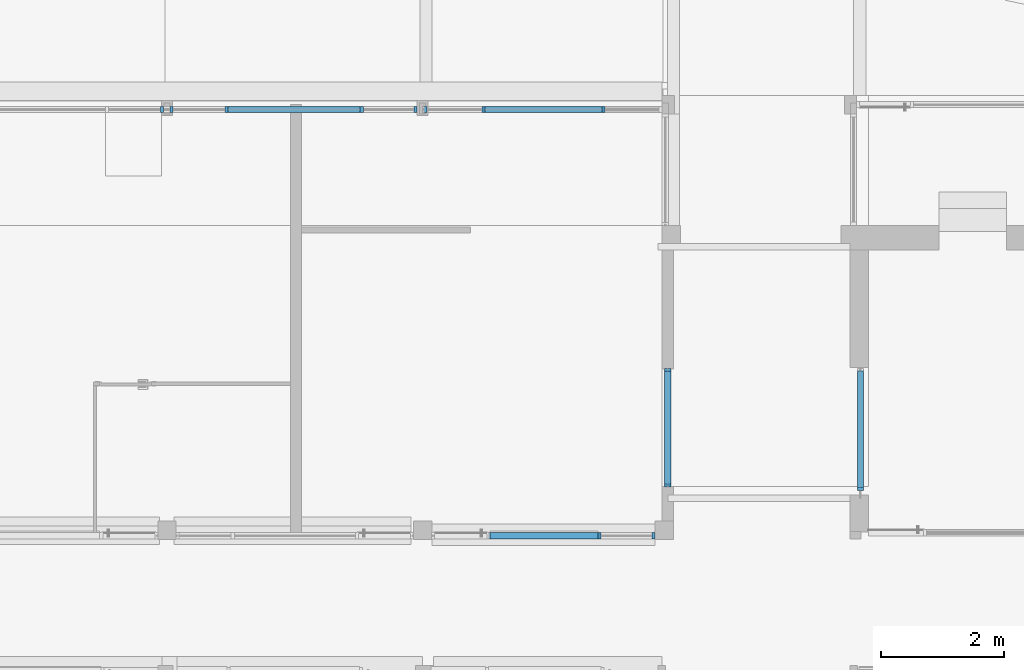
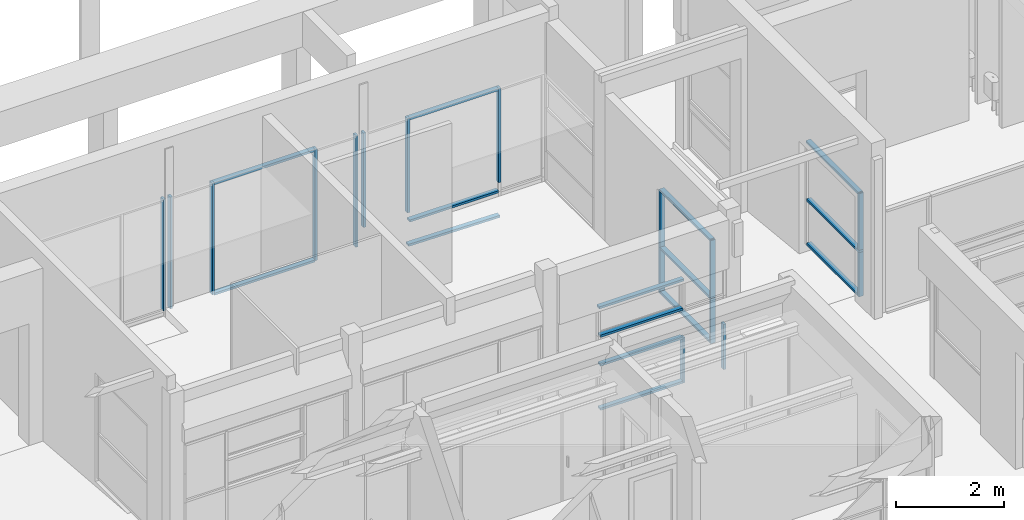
# One storey, part 13 of 117: 31 members, 5 elements without a shape of their own.
"""IFC4 building model written with IfcOpenShell, lengths in metres."""

from ifc_helpers import new_model, entity, si_unit, converted_unit, derived_unit, direction, frame, origin, place, context, subcontext, project, spatial, indexed_curve, outline, extrude, source, transform, mapped, material, type_object, type_shapes, element, aggregate, save


model = new_model("IFC4")

# Units and contexts
model_context = context("Model", 3, precision=1e-05, world=origin(), true_north=direction((6.123031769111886e-17, 1.0)))
body_context = subcontext(model_context, "Body", "Model", "MODEL_VIEW")
ifc_project = project(units=[si_unit("LENGTHUNIT", "METRE"), si_unit("AREAUNIT", "SQUARE_METRE"), si_unit("VOLUMEUNIT", "CUBIC_METRE"), converted_unit("PLANEANGLEUNIT", "DEGREE", entity("IfcRatioMeasure", 0.017453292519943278), si_unit("PLANEANGLEUNIT", "RADIAN"), dimensions=[0, 0, 0, 0, 0, 0, 0]), si_unit("MASSUNIT", "GRAM", prefix="KILO"), derived_unit("MASSDENSITYUNIT", [(si_unit("MASSUNIT", "GRAM", prefix="KILO"), 1), (si_unit("LENGTHUNIT", "METRE"), -3)]), derived_unit("MOMENTOFINERTIAUNIT", [(si_unit("LENGTHUNIT", "METRE"), 4)]), si_unit("TIMEUNIT", "SECOND"), si_unit("FREQUENCYUNIT", "HERTZ"), si_unit("THERMODYNAMICTEMPERATUREUNIT", "DEGREE_CELSIUS"), derived_unit("THERMALTRANSMITTANCEUNIT", [(si_unit("MASSUNIT", "GRAM", prefix="KILO"), 1), (si_unit("THERMODYNAMICTEMPERATUREUNIT", "KELVIN"), -1), (si_unit("TIMEUNIT", "SECOND"), -3)]), derived_unit("VOLUMETRICFLOWRATEUNIT", [(si_unit("LENGTHUNIT", "METRE"), 3), (si_unit("TIMEUNIT", "SECOND"), -1)]), derived_unit("MASSFLOWRATEUNIT", [(si_unit("MASSUNIT", "GRAM", prefix="KILO"), 1), (si_unit("TIMEUNIT", "SECOND"), -1)]), derived_unit("ROTATIONALFREQUENCYUNIT", [(si_unit("TIMEUNIT", "SECOND"), -1)]), si_unit("ELECTRICCURRENTUNIT", "AMPERE"), si_unit("ELECTRICVOLTAGEUNIT", "VOLT"), si_unit("POWERUNIT", "WATT"), si_unit("FORCEUNIT", "NEWTON", prefix="KILO"), si_unit("ILLUMINANCEUNIT", "LUX"), si_unit("LUMINOUSFLUXUNIT", "LUMEN"), si_unit("LUMINOUSINTENSITYUNIT", "CANDELA"), derived_unit("USERDEFINED", [(si_unit("MASSUNIT", "GRAM", prefix="KILO"), -1), (si_unit("LENGTHUNIT", "METRE"), -2), (si_unit("TIMEUNIT", "SECOND"), 3), (si_unit("LUMINOUSFLUXUNIT", "LUMEN"), 1)]), derived_unit("SOUNDPOWERUNIT", [(si_unit("MASSUNIT", "GRAM", prefix="KILO"), 1), (si_unit("LENGTHUNIT", "METRE"), 2), (si_unit("TIMEUNIT", "SECOND"), -3)]), derived_unit("SOUNDPRESSUREUNIT", [(si_unit("MASSUNIT", "GRAM", prefix="KILO"), 1), (si_unit("LENGTHUNIT", "METRE"), -1), (si_unit("TIMEUNIT", "SECOND"), -2)]), derived_unit("LINEARVELOCITYUNIT", [(si_unit("LENGTHUNIT", "METRE"), 1), (si_unit("TIMEUNIT", "SECOND"), -1)]), si_unit("PRESSUREUNIT", "PASCAL"), derived_unit("USERDEFINED", [(si_unit("LENGTHUNIT", "METRE"), -2), (si_unit("MASSUNIT", "GRAM", prefix="KILO"), 1), (si_unit("TIMEUNIT", "SECOND"), -2)]), derived_unit("LINEARFORCEUNIT", [(si_unit("MASSUNIT", "GRAM", prefix="KILO"), 1), (si_unit("LENGTHUNIT", "METRE"), 1), (si_unit("TIMEUNIT", "SECOND"), -2), (si_unit("LENGTHUNIT", "METRE"), -1)]), derived_unit("PLANARFORCEUNIT", [(si_unit("MASSUNIT", "GRAM", prefix="KILO"), 1), (si_unit("LENGTHUNIT", "METRE"), 1), (si_unit("TIMEUNIT", "SECOND"), -2), (si_unit("LENGTHUNIT", "METRE"), -2)])], contexts=[model_context])

# Site, building, storey
site_placement = place(None, origin())
site = spatial("IfcSite", under=ifc_project, at=site_placement, Name="Superficie", CompositionType="ELEMENT")
building_placement = place(site_placement, origin())
building = spatial("IfcBuilding", under=site, at=building_placement, CompositionType="ELEMENT")
storey_placement = place(building_placement, origin())
storey = spatial("IfcBuildingStorey", under=building, at=storey_placement, Name="Nivel 0", CompositionType="ELEMENT", Elevation=0.0)

# Curtain wall, members
curtain_wall_type = type_object("IfcCurtainWallType", Name="Muro cortina:Muro cortina - simple", PredefinedType="NOTDEFINED")
curtain_wall_1_placement = place(storey_placement, origin())
curtain_wall_1 = element("IfcCurtainWall", 1, at=curtain_wall_1_placement, inside=storey, type_object=curtain_wall_type, Name="Muro cortina:Muro cortina - simple", ObjectType="Muro cortina:Muro cortina - simple", PredefinedType="NOTDEFINED")
ifc_material = material(Name="<Unnamed>")
member_type_1 = type_object("IfcMemberType", Name="Montante rectangular:Montante rectangular - 5 x 10 cm", PredefinedType="MULLION", material=ifc_material)
shared_shape_1 = source(origin(), body_context, "Body", "SweptSolid", [
    extrude(outline(indexed_curve([(-0.05, -0.025), (0.05, -0.025), (0.05, 0.025), (-0.05, 0.025), (-0.05, -0.025)], self_intersect=False)), frame((0.0, 0.0, -1.0250000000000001), z_axis=(0.0, 0.0, 1.0), x_axis=(0.0, -1.0, 0.0)), (0.0, 0.0, 1.0), 1.0250000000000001),
])
type_shapes(member_type_1, [shared_shape_1])
member_1_placement = place(curtain_wall_1_placement, frame((12.881799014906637, 6.536739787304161, -0.004999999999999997), z_axis=(0.0, 0.0, -1.0), x_axis=(0.0, -1.0, 0.0)))
member_1 = element("IfcMember", 2, at=member_1_placement, type_object=member_type_1, material=ifc_material, Name="Montante rectangular:Montante rectangular - 5 x 10 cm", ObjectType="Montante rectangular:Montante rectangular - 5 x 10 cm", PredefinedType="MULLION", context=body_context, shape_type="MappedRepresentation", body=[
    mapped(shared_shape_1, transform((0.0, 0.0, 0.0), scale=1.0)),
])
member_2_placement = place(curtain_wall_1_placement, frame((12.881799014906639, 8.413973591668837, -0.004999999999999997), z_axis=(0.0, 0.0, -1.0), x_axis=(0.0, -1.0, 0.0)))
member_2 = element("IfcMember", 3, at=member_2_placement, type_object=member_type_1, material=ifc_material, Name="Montante rectangular:Montante rectangular - 5 x 10 cm", ObjectType="Montante rectangular:Montante rectangular - 5 x 10 cm", PredefinedType="MULLION", context=body_context, shape_type="MappedRepresentation", body=[
    mapped(shared_shape_1, transform((0.0, 0.0, 0.0), scale=1.0)),
])

# Curtain wall, member
curtain_wall_2_placement = place(storey_placement, origin())
curtain_wall_2 = element("IfcCurtainWall", 4, at=curtain_wall_2_placement, inside=storey, type_object=curtain_wall_type, Name="Muro cortina:Muro cortina - simple", ObjectType="Muro cortina:Muro cortina - simple", PredefinedType="NOTDEFINED")
member_3_placement = place(curtain_wall_2_placement, frame((11.771799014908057, 5.7167397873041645, -0.005000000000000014), z_axis=(0.0, 0.0, -1.0), x_axis=(1.0, 0.0, 0.0)))
member_3 = element("IfcMember", 5, at=member_3_placement, type_object=member_type_1, material=ifc_material, Name="Montante rectangular:Montante rectangular - 5 x 10 cm", ObjectType="Montante rectangular:Montante rectangular - 5 x 10 cm", PredefinedType="MULLION", context=body_context, shape_type="MappedRepresentation", body=[
    mapped(shared_shape_1, transform((0.0, 0.0, 0.0), scale=1.0)),
])

# Member
member_type_2 = type_object("IfcMemberType", Name="Montante rectangular:Montante rectangular - 5 x 10 cm", PredefinedType="MULLION", material=ifc_material)
shared_shape_2 = source(origin(), body_context, "Body", "SweptSolid", [
    extrude(outline(indexed_curve([(-0.05, -0.025), (0.05, -0.025), (0.05, 0.025), (-0.05, 0.025), (-0.05, -0.025)], self_intersect=False)), frame((0.0, 0.0, -1.3099999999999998), z_axis=(0.0, 0.0, 1.0), x_axis=(0.0, -1.0, 0.0)), (0.0, 0.0, 1.0), 1.3099999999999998),
])
type_shapes(member_type_2, [shared_shape_2])
member_4_placement = place(curtain_wall_1_placement, frame((12.881799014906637, 6.536739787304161, 1.0200000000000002), z_axis=(0.0, 0.0, -1.0), x_axis=(0.0, -1.0, 0.0)))
member_4 = element("IfcMember", 6, at=member_4_placement, type_object=member_type_2, material=ifc_material, Name="Montante rectangular:Montante rectangular - 5 x 10 cm", ObjectType="Montante rectangular:Montante rectangular - 5 x 10 cm", PredefinedType="MULLION", context=body_context, shape_type="MappedRepresentation", body=[
    mapped(shared_shape_2, transform((0.0, 0.0, 0.0), scale=1.0)),
])

member_5_placement = place(curtain_wall_1_placement, frame((12.881799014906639, 8.413973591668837, 1.0200000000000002), z_axis=(0.0, 0.0, -1.0), x_axis=(0.0, -1.0, 0.0)))
member_5 = element("IfcMember", 7, at=member_5_placement, type_object=member_type_2, material=ifc_material, Name="Montante rectangular:Montante rectangular - 5 x 10 cm", ObjectType="Montante rectangular:Montante rectangular - 5 x 10 cm", PredefinedType="MULLION", context=body_context, shape_type="MappedRepresentation", body=[
    mapped(shared_shape_2, transform((0.0, 0.0, 0.0), scale=1.0)),
])

member_type_3 = type_object("IfcMemberType", Name="Montante rectangular:Montante rectangular - 5 x 10 cm", PredefinedType="MULLION", material=ifc_material)
shared_shape_3 = source(origin(), body_context, "Body", "SweptSolid", [
    extrude(outline(indexed_curve([(-0.05, -0.025), (0.05, -0.025), (0.05, 0.025), (-0.05, 0.025), (-0.05, -0.025)], self_intersect=False)), frame((-0.025, 0.0, -1.877233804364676), z_axis=(0.0, 0.0, 1.0), x_axis=(0.0, -1.0, 0.0)), (0.0, 0.0, 1.0), 1.8772338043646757),
])
type_shapes(member_type_3, [shared_shape_3])
member_6_placement = place(curtain_wall_1_placement, frame((12.881799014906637, 6.536739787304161, 2.3499999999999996), z_axis=(0.0, -1.0, 0.0), x_axis=(0.0, 0.0, 1.0)))
member_6 = element("IfcMember", 8, at=member_6_placement, type_object=member_type_3, material=ifc_material, Name="Montante rectangular:Montante rectangular - 5 x 10 cm", ObjectType="Montante rectangular:Montante rectangular - 5 x 10 cm", PredefinedType="MULLION", context=body_context, shape_type="MappedRepresentation", body=[
    mapped(shared_shape_3, transform((0.0, 0.0, 0.0), scale=1.0)),
])

member_type_4 = type_object("IfcMemberType", Name="Montante rectangular:Montante rectangular - 5 x 10 cm", PredefinedType="MULLION", material=ifc_material)
shared_shape_4 = source(origin(), body_context, "Body", "SweptSolid", [
    extrude(outline(indexed_curve([(-0.05, -0.025), (0.05, -0.025), (0.05, 0.025), (-0.05, 0.025), (-0.05, -0.025)], self_intersect=False)), frame((0.0, 0.0, -1.827233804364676), z_axis=(0.0, 0.0, 1.0), x_axis=(0.0, -1.0, 0.0)), (0.0, 0.0, 1.0), 1.8272338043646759),
])
type_shapes(member_type_4, [shared_shape_4])
member_7_placement = place(curtain_wall_1_placement, frame((12.881799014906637, 6.561739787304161, 0.020000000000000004), z_axis=(0.0, -1.0, 0.0), x_axis=(0.0, 0.0, 1.0)))
member_7 = element("IfcMember", 9, at=member_7_placement, type_object=member_type_4, material=ifc_material, Name="Montante rectangular:Montante rectangular - 5 x 10 cm", ObjectType="Montante rectangular:Montante rectangular - 5 x 10 cm", PredefinedType="MULLION", context=body_context, shape_type="MappedRepresentation", body=[
    mapped(shared_shape_4, transform((0.0, 0.0, 0.0), scale=1.0)),
])

member_8_placement = place(curtain_wall_1_placement, frame((12.881799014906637, 6.561739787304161, 1.0200000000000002), z_axis=(0.0, -1.0, 0.0), x_axis=(0.0, 0.0, 1.0)))
member_8 = element("IfcMember", 10, at=member_8_placement, type_object=member_type_4, material=ifc_material, Name="Montante rectangular:Montante rectangular - 5 x 10 cm", ObjectType="Montante rectangular:Montante rectangular - 5 x 10 cm", PredefinedType="MULLION", context=body_context, shape_type="MappedRepresentation", body=[
    mapped(shared_shape_4, transform((0.0, 0.0, 0.0), scale=1.0)),
])

aggregate(curtain_wall_1, [member_6, member_1, member_7, member_2, member_4, member_5, member_8])

member_type_5 = type_object("IfcMemberType", Name="Montante rectangular:Montante rectangular - 5 x 10 cm", PredefinedType="MULLION", material=ifc_material)
shared_shape_5 = source(origin(), body_context, "Body", "SweptSolid", [
    extrude(outline(indexed_curve([(-0.05, -0.025), (0.05, -0.025), (0.05, 0.025), (-0.05, 0.025), (-0.05, -0.025)], self_intersect=False)), frame((-0.025, 0.0, -1.8102469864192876), z_axis=(0.0, 0.0, 1.0), x_axis=(0.0, -1.0, 0.0)), (0.0, 0.0, 1.0), 1.8102469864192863),
])
type_shapes(member_type_5, [shared_shape_5])
member_9_placement = place(curtain_wall_2_placement, frame((11.771799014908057, 5.7167397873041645, 2.35), z_axis=(1.0, 0.0, 0.0), x_axis=(0.0, 0.0, 1.0)))
member_9 = element("IfcMember", 11, at=member_9_placement, type_object=member_type_5, material=ifc_material, Name="Montante rectangular:Montante rectangular - 5 x 10 cm", ObjectType="Montante rectangular:Montante rectangular - 5 x 10 cm", PredefinedType="MULLION", context=body_context, shape_type="MappedRepresentation", body=[
    mapped(shared_shape_5, transform((0.0, 0.0, 0.0), scale=1.0)),
])

member_type_6 = type_object("IfcMemberType", Name="Montante rectangular:Montante rectangular - 5 x 10 cm", PredefinedType="MULLION", material=ifc_material)
shared_shape_6 = source(origin(), body_context, "Body", "SweptSolid", [
    extrude(outline(indexed_curve([(-0.05, -0.025), (0.05, -0.025), (0.05, 0.025), (-0.05, 0.025), (-0.05, -0.025)], self_intersect=False)), frame((0.0, 0.0, -1.7602469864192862), z_axis=(0.0, 0.0, 1.0), x_axis=(0.0, -1.0, 0.0)), (0.0, 0.0, 1.0), 1.7602469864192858),
])
type_shapes(member_type_6, [shared_shape_6])
member_10_placement = place(curtain_wall_2_placement, frame((11.746799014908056, 5.7167397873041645, 0.019999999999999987), z_axis=(1.0, 0.0, 0.0), x_axis=(0.0, 0.0, 1.0)))
member_10 = element("IfcMember", 12, at=member_10_placement, type_object=member_type_6, material=ifc_material, Name="Montante rectangular:Montante rectangular - 5 x 10 cm", ObjectType="Montante rectangular:Montante rectangular - 5 x 10 cm", PredefinedType="MULLION", context=body_context, shape_type="MappedRepresentation", body=[
    mapped(shared_shape_6, transform((0.0, 0.0, 0.0), scale=1.0)),
])

member_11_placement = place(curtain_wall_2_placement, frame((11.746799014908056, 5.7167397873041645, 1.0199999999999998), z_axis=(1.0, 0.0, 0.0), x_axis=(0.0, 0.0, 1.0)))
member_11 = element("IfcMember", 13, at=member_11_placement, type_object=member_type_6, material=ifc_material, Name="Montante rectangular:Montante rectangular - 5 x 10 cm", ObjectType="Montante rectangular:Montante rectangular - 5 x 10 cm", PredefinedType="MULLION", context=body_context, shape_type="MappedRepresentation", body=[
    mapped(shared_shape_6, transform((0.0, 0.0, 0.0), scale=1.0)),
])

member_12_placement = place(curtain_wall_2_placement, frame((11.746799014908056, 5.7167397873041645, 1.6749999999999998), z_axis=(1.0, 0.0, 0.0), x_axis=(0.0, 0.0, 1.0)))
member_12 = element("IfcMember", 14, at=member_12_placement, type_object=member_type_6, material=ifc_material, Name="Montante rectangular:Montante rectangular - 5 x 10 cm", ObjectType="Montante rectangular:Montante rectangular - 5 x 10 cm", PredefinedType="MULLION", context=body_context, shape_type="MappedRepresentation", body=[
    mapped(shared_shape_6, transform((0.0, 0.0, 0.0), scale=1.0)),
])

member_type_7 = type_object("IfcMemberType", Name="Montante rectangular:Montante rectangular - 5 x 10 cm", PredefinedType="MULLION", material=ifc_material)
shared_shape_7 = source(origin(), body_context, "Body", "SweptSolid", [
    extrude(outline(indexed_curve([(-0.05, -0.025), (0.05, -0.025), (0.05, 0.025), (-0.05, 0.025), (-0.05, -0.025)], self_intersect=False)), frame((-0.025, 0.0, -1.025), z_axis=(0.0, 0.0, 1.0), x_axis=(0.0, -1.0, 0.0)), (0.0, 0.0, 1.0), 1.025),
])
type_shapes(member_type_7, [shared_shape_7])
member_13_placement = place(curtain_wall_2_placement, frame((12.671799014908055, 5.716739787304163, -0.005000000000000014), z_axis=(0.0, 0.0, -1.0), x_axis=(1.0, 0.0, 0.0)))
member_13 = element("IfcMember", 15, at=member_13_placement, type_object=member_type_7, material=ifc_material, Name="Montante rectangular:Montante rectangular - 5 x 10 cm", ObjectType="Montante rectangular:Montante rectangular - 5 x 10 cm", PredefinedType="MULLION", context=body_context, shape_type="MappedRepresentation", body=[
    mapped(shared_shape_7, transform((0.0, 0.0, 0.0), scale=1.0)),
])

aggregate(curtain_wall_2, [member_9, member_10, member_11, member_12, member_13, member_3])

# Curtain wall, members
curtain_wall_3_placement = place(storey_placement, origin())
curtain_wall_3 = element("IfcCurtainWall", 16, at=curtain_wall_3_placement, inside=storey, type_object=curtain_wall_type, Name="Muro cortina:Muro cortina - simple", ObjectType="Muro cortina:Muro cortina - simple", PredefinedType="NOTDEFINED")
member_type_8 = type_object("IfcMemberType", Name="Montante rectangular:Montante rectangular - 5 x 10 cm", PredefinedType="MULLION", material=ifc_material)
shared_shape_8 = source(origin(), body_context, "Body", "SweptSolid", [
    extrude(outline(indexed_curve([(-0.05, -0.025), (0.05, -0.025), (0.05, 0.025), (-0.05, 0.025), (-0.05, -0.025)], self_intersect=False)), frame((-0.025, 0.0, -1.938529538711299), z_axis=(0.0, 0.0, 1.0), x_axis=(0.0, -1.0, 0.0)), (0.0, 0.0, 1.0), 1.938529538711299),
])
type_shapes(member_type_8, [shared_shape_8])
member_14_placement = place(curtain_wall_3_placement, frame((16.016799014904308, 6.475444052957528, 2.35), z_axis=(0.0, -1.0, 0.0), x_axis=(0.0, 0.0, 1.0)))
member_14 = element("IfcMember", 17, at=member_14_placement, type_object=member_type_8, material=ifc_material, Name="Montante rectangular:Montante rectangular - 5 x 10 cm", ObjectType="Montante rectangular:Montante rectangular - 5 x 10 cm", PredefinedType="MULLION", context=body_context, shape_type="MappedRepresentation", body=[
    mapped(shared_shape_8, transform((0.0, 0.0, 0.0), scale=1.0)),
])
member_type_9 = type_object("IfcMemberType", Name="Montante rectangular:Montante rectangular - 5 x 10 cm", PredefinedType="MULLION", material=ifc_material)
shared_shape_9 = source(origin(), body_context, "Body", "SweptSolid", [
    extrude(outline(indexed_curve([(-0.05, -0.025), (0.05, -0.025), (0.05, 0.025), (-0.05, 0.025), (-0.05, -0.025)], self_intersect=False)), frame((0.0, 0.0, -1.8885295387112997), z_axis=(0.0, 0.0, 1.0), x_axis=(0.0, -1.0, 0.0)), (0.0, 0.0, 1.0), 1.8885295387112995),
])
type_shapes(member_type_9, [shared_shape_9])
member_15_placement = place(curtain_wall_3_placement, frame((16.016799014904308, 6.500444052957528, 0.020000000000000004), z_axis=(0.0, -1.0, 0.0), x_axis=(0.0, 0.0, 1.0)))
member_15 = element("IfcMember", 18, at=member_15_placement, type_object=member_type_9, material=ifc_material, Name="Montante rectangular:Montante rectangular - 5 x 10 cm", ObjectType="Montante rectangular:Montante rectangular - 5 x 10 cm", PredefinedType="MULLION", context=body_context, shape_type="MappedRepresentation", body=[
    mapped(shared_shape_9, transform((0.0, 0.0, 0.0), scale=1.0)),
])
member_type_10 = type_object("IfcMemberType", Name="Montante rectangular:Montante rectangular - 5 x 10 cm", PredefinedType="MULLION", material=ifc_material)
shared_shape_10 = source(origin(), body_context, "Body", "SweptSolid", [
    extrude(outline(indexed_curve([(-0.05, -0.025), (0.05, -0.025), (0.05, 0.025), (-0.05, 0.025), (-0.05, -0.025)], self_intersect=False)), frame((0.0, 0.0, -1.938529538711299), z_axis=(0.0, 0.0, 1.0), x_axis=(0.0, -1.0, 0.0)), (0.0, 0.0, 1.0), 1.9385295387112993),
])
type_shapes(member_type_10, [shared_shape_10])
member_16_placement = place(curtain_wall_3_placement, frame((16.016799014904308, 6.450444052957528, 1.0200000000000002), z_axis=(0.0, -1.0, 0.0), x_axis=(0.0, 0.0, 1.0)))
member_16 = element("IfcMember", 19, at=member_16_placement, type_object=member_type_10, material=ifc_material, Name="Montante rectangular:Montante rectangular - 5 x 10 cm", ObjectType="Montante rectangular:Montante rectangular - 5 x 10 cm", PredefinedType="MULLION", context=body_context, shape_type="MappedRepresentation", body=[
    mapped(shared_shape_10, transform((0.0, 0.0, 0.0), scale=1.0)),
])
member_type_11 = type_object("IfcMemberType", Name="Montante rectangular:Montante rectangular - 5 x 10 cm", PredefinedType="MULLION", material=ifc_material)
shared_shape_11 = source(origin(), body_context, "Body", "SweptSolid", [
    extrude(outline(indexed_curve([(-0.05, -0.025), (0.05, -0.025), (0.05, 0.025), (-0.05, 0.025), (-0.05, -0.025)], self_intersect=False)), frame((0.0, 0.0, -1.2849999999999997), z_axis=(0.0, 0.0, 1.0), x_axis=(0.0, -1.0, 0.0)), (0.0, 0.0, 1.0), 1.2849999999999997),
])
type_shapes(member_type_11, [shared_shape_11])
member_17_placement = place(curtain_wall_3_placement, frame((16.016799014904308, 6.475444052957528, 1.0450000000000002), z_axis=(0.0, 0.0, -1.0), x_axis=(0.0, -1.0, 0.0)))
member_17 = element("IfcMember", 20, at=member_17_placement, type_object=member_type_11, material=ifc_material, Name="Montante rectangular:Montante rectangular - 5 x 10 cm", ObjectType="Montante rectangular:Montante rectangular - 5 x 10 cm", PredefinedType="MULLION", context=body_context, shape_type="MappedRepresentation", body=[
    mapped(shared_shape_11, transform((0.0, 0.0, 0.0), scale=1.0)),
])
member_type_12 = type_object("IfcMemberType", Name="Montante rectangular:Montante rectangular - 5 x 10 cm", PredefinedType="MULLION", material=ifc_material)
shared_shape_12 = source(origin(), body_context, "Body", "SweptSolid", [
    extrude(outline(indexed_curve([(-0.05, -0.025), (0.05, -0.025), (0.05, 0.025), (-0.05, 0.025), (-0.05, -0.025)], self_intersect=False)), frame((0.0, 0.0, -1.0), z_axis=(0.0, 0.0, 1.0), x_axis=(0.0, -1.0, 0.0)), (0.0, 0.0, 1.0), 1.0),
])
type_shapes(member_type_12, [shared_shape_12])
member_18_placement = place(curtain_wall_3_placement, frame((16.016799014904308, 6.475444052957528, -0.004999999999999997), z_axis=(0.0, 0.0, -1.0), x_axis=(0.0, -1.0, 0.0)))
member_18 = element("IfcMember", 21, at=member_18_placement, type_object=member_type_12, material=ifc_material, Name="Montante rectangular:Montante rectangular - 5 x 10 cm", ObjectType="Montante rectangular:Montante rectangular - 5 x 10 cm", PredefinedType="MULLION", context=body_context, shape_type="MappedRepresentation", body=[
    mapped(shared_shape_12, transform((0.0, 0.0, 0.0), scale=1.0)),
])
aggregate(curtain_wall_3, [member_14, member_15, member_16, member_17, member_18])

curtain_wall_4_placement = place(storey_placement, origin())
curtain_wall_4 = element("IfcCurtainWall", 22, at=curtain_wall_4_placement, inside=storey, type_object=curtain_wall_type, Name="Muro cortina:Muro cortina - simple", ObjectType="Muro cortina:Muro cortina - simple", PredefinedType="NOTDEFINED")
member_type_13 = type_object("IfcMemberType", Name="Montante rectangular:Montante rectangular - 5 x 10 cm", PredefinedType="MULLION", material=ifc_material)
shared_shape_13 = source(origin(), body_context, "Body", "SweptSolid", [
    extrude(outline(indexed_curve([(-0.05, -0.025), (0.05, -0.025), (0.05, 0.025), (-0.05, 0.025), (-0.05, -0.025)], self_intersect=False)), frame((0.0, 0.0, -1.9040162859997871), z_axis=(0.0, 0.0, 1.0), x_axis=(0.0, -1.0, 0.0)), (0.0, 0.0, 1.0), 1.9040162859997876),
])
type_shapes(member_type_13, [shared_shape_13])
member_19_placement = place(curtain_wall_4_placement, frame((9.906552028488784, 12.654548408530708, 0.10429380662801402), z_axis=(-1.0, 0.0, 0.0), x_axis=(0.0, 0.0, 1.0)))
member_19 = element("IfcMember", 23, at=member_19_placement, type_object=member_type_13, material=ifc_material, Name="Montante rectangular:Montante rectangular - 5 x 10 cm", ObjectType="Montante rectangular:Montante rectangular - 5 x 10 cm", PredefinedType="MULLION", context=body_context, shape_type="MappedRepresentation", body=[
    mapped(shared_shape_13, transform((0.0, 0.0, 0.0), scale=1.0)),
])
member_type_14 = type_object("IfcMemberType", Name="Montante rectangular:Montante rectangular - 5 x 10 cm", PredefinedType="MULLION", material=ifc_material)
shared_shape_14 = source(origin(), body_context, "Body", "SweptSolid", [
    extrude(outline(indexed_curve([(-0.05, -0.025), (0.05, -0.025), (0.05, 0.025), (-0.05, 0.025), (-0.05, -0.025)], self_intersect=False)), frame((-0.025, 0.0, -1.9542005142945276), z_axis=(0.0, 0.0, 1.0), x_axis=(0.0, -1.0, 0.0)), (0.0, 0.0, 1.0), 1.954200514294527),
])
type_shapes(member_type_14, [shared_shape_14])
member_20_placement = place(curtain_wall_4_placement, frame((11.835568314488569, 12.654548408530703, -0.4893553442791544), z_axis=(0.999905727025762, 0.0, -0.013730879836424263), x_axis=(-0.013730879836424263, 0.0, -0.999905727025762)))
member_20 = element("IfcMember", 24, at=member_20_placement, type_object=member_type_14, material=ifc_material, Name="Montante rectangular:Montante rectangular - 5 x 10 cm", ObjectType="Montante rectangular:Montante rectangular - 5 x 10 cm", PredefinedType="MULLION", context=body_context, shape_type="MappedRepresentation", body=[
    mapped(shared_shape_14, transform((0.0, 0.0, 0.0), scale=1.0)),
])
member_type_15 = type_object("IfcMemberType", Name="Montante rectangular:Montante rectangular - 5 x 10 cm", PredefinedType="MULLION", material=ifc_material)
shared_shape_15 = source(origin(), body_context, "Body", "SweptSolid", [
    extrude(outline(indexed_curve([(-0.05, -0.025), (0.05, -0.025), (0.05, 0.025), (-0.05, 0.025), (-0.05, -0.025)], self_intersect=False)), frame((-0.025, 0.0, -1.9040162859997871), z_axis=(0.0, 0.0, 1.0), x_axis=(0.0, -1.0, 0.0)), (0.0, 0.0, 1.0), 1.9040162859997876),
])
type_shapes(member_type_15, [shared_shape_15])
member_21_placement = place(curtain_wall_4_placement, frame((9.906552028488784, 12.654548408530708, 2.44), z_axis=(-1.0, 0.0, 0.0), x_axis=(0.0, 0.0, 1.0)))
member_21 = element("IfcMember", 25, at=member_21_placement, type_object=member_type_15, material=ifc_material, Name="Montante rectangular:Montante rectangular - 5 x 10 cm", ObjectType="Montante rectangular:Montante rectangular - 5 x 10 cm", PredefinedType="MULLION", context=body_context, shape_type="MappedRepresentation", body=[
    mapped(shared_shape_15, transform((0.0, 0.0, 0.0), scale=1.0)),
])
member_type_16 = type_object("IfcMemberType", Name="Montante rectangular:Montante rectangular - 5 x 10 cm", PredefinedType="MULLION", material=ifc_material)
shared_shape_16 = source(origin(), body_context, "Body", "SweptSolid", [
    extrude(outline(indexed_curve([(-0.05, -0.025), (0.05, -0.025), (0.05, 0.025), (-0.05, 0.025), (-0.05, -0.025)], self_intersect=False)), frame((0.0, 0.0, -2.135706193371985), z_axis=(0.0, 0.0, 1.0), x_axis=(0.0, -1.0, 0.0)), (0.0, 0.0, 1.0), 2.135706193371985),
])
type_shapes(member_type_16, [shared_shape_16])
member_22_placement = place(curtain_wall_4_placement, frame((11.83556831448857, 12.654548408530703, 0.3042938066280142), z_axis=(0.0, 0.0, -1.0), x_axis=(-1.0, 0.0, 0.0)))
member_22 = element("IfcMember", 26, at=member_22_placement, type_object=member_type_16, material=ifc_material, Name="Montante rectangular:Montante rectangular - 5 x 10 cm", ObjectType="Montante rectangular:Montante rectangular - 5 x 10 cm", PredefinedType="MULLION", context=body_context, shape_type="MappedRepresentation", body=[
    mapped(shared_shape_16, transform((0.0, 0.0, 0.0), scale=1.0)),
])
member_23_placement = place(curtain_wall_4_placement, frame((9.881552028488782, 12.654548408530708, 0.3042938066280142), z_axis=(0.0, 0.0, -1.0), x_axis=(-1.0, 0.0, 0.0)))
member_23 = element("IfcMember", 27, at=member_23_placement, type_object=member_type_16, material=ifc_material, Name="Montante rectangular:Montante rectangular - 5 x 10 cm", ObjectType="Montante rectangular:Montante rectangular - 5 x 10 cm", PredefinedType="MULLION", context=body_context, shape_type="MappedRepresentation", body=[
    mapped(shared_shape_16, transform((0.0, 0.0, 0.0), scale=1.0)),
])
member_24_placement = place(curtain_wall_4_placement, frame((8.941552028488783, 12.654548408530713, 0.3042938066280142), z_axis=(0.0, 0.0, -1.0), x_axis=(-1.0, 0.0, 0.0)))
member_24 = element("IfcMember", 28, at=member_24_placement, type_object=member_type_16, material=ifc_material, Name="Montante rectangular:Montante rectangular - 5 x 10 cm", ObjectType="Montante rectangular:Montante rectangular - 5 x 10 cm", PredefinedType="MULLION", context=body_context, shape_type="MappedRepresentation", body=[
    mapped(shared_shape_16, transform((0.0, 0.0, 0.0), scale=1.0)),
])
aggregate(curtain_wall_4, [member_19, member_20, member_21, member_22, member_23, member_24])

curtain_wall_5_placement = place(storey_placement, origin())
curtain_wall_5 = element("IfcCurtainWall", 29, at=curtain_wall_5_placement, inside=storey, type_object=curtain_wall_type, Name="Muro cortina:Muro cortina - simple", ObjectType="Muro cortina:Muro cortina - simple", PredefinedType="NOTDEFINED")
member_type_17 = type_object("IfcMemberType", Name="Montante rectangular:Montante rectangular - 5 x 10 cm", PredefinedType="MULLION", material=ifc_material)
shared_shape_17 = source(origin(), body_context, "Body", "SweptSolid", [
    extrude(outline(indexed_curve([(-0.05, -0.025), (0.05, -0.025), (0.05, 0.025), (-0.05, 0.025), (-0.05, -0.025)], self_intersect=False)), frame((-0.025, 0.0, -2.5264770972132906), z_axis=(0.0, 0.0, 1.0), x_axis=(0.0, -1.0, 0.0)), (0.0, 0.0, 1.0), 2.5264770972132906),
])
type_shapes(member_type_17, [shared_shape_17])
member_25_placement = place(curtain_wall_5_placement, frame((8.801552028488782, 12.654548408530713, 2.44)))
member_25 = element("IfcMember", 30, at=member_25_placement, type_object=member_type_17, material=ifc_material, Name="Montante rectangular:Montante rectangular - 5 x 10 cm", ObjectType="Montante rectangular:Montante rectangular - 5 x 10 cm", PredefinedType="MULLION", context=body_context, shape_type="MappedRepresentation", body=[
    mapped(shared_shape_17, transform((0.0, 0.0, 0.0), scale=1.0)),
])
member_type_18 = type_object("IfcMemberType", Name="Montante rectangular:Montante rectangular - 5 x 10 cm", PredefinedType="MULLION", material=ifc_material)
shared_shape_18 = source(origin(), body_context, "Body", "SweptSolid", [
    extrude(outline(indexed_curve([(-0.05, -0.025), (0.05, -0.025), (0.05, 0.025), (-0.05, 0.025), (-0.05, -0.025)], self_intersect=False)), frame((0.0, 0.0, -2.150000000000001), z_axis=(0.0, 0.0, 1.0), x_axis=(0.0, -1.0, 0.0)), (0.0, 0.0, 1.0), 2.1500000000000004),
])
type_shapes(member_type_18, [shared_shape_18])
member_26_placement = place(curtain_wall_5_placement, frame((5.726552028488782, 12.654548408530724, -0.08647709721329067), z_axis=(-1.0, 0.0, 0.0), x_axis=(0.0, 0.0, 1.0)))
member_26 = element("IfcMember", 31, at=member_26_placement, type_object=member_type_18, material=ifc_material, Name="Montante rectangular:Montante rectangular - 5 x 10 cm", ObjectType="Montante rectangular:Montante rectangular - 5 x 10 cm", PredefinedType="MULLION", context=body_context, shape_type="MappedRepresentation", body=[
    mapped(shared_shape_18, transform((0.0, 0.0, 0.0), scale=1.0)),
])
member_type_19 = type_object("IfcMemberType", Name="Montante rectangular:Montante rectangular - 5 x 10 cm", PredefinedType="MULLION", material=ifc_material)
shared_shape_19 = source(origin(), body_context, "Body", "SweptSolid", [
    extrude(outline(indexed_curve([(-0.05, -0.025), (0.05, -0.025), (0.05, 0.025), (-0.05, 0.025), (-0.05, -0.025)], self_intersect=False)), frame((-0.025, 0.0, -2.150000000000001), z_axis=(0.0, 0.0, 1.0), x_axis=(0.0, -1.0, 0.0)), (0.0, 0.0, 1.0), 2.1500000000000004),
])
type_shapes(member_type_19, [shared_shape_19])
member_27_placement = place(curtain_wall_5_placement, frame((5.726552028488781, 12.654548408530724, 2.44), z_axis=(-1.0, 0.0, 0.0), x_axis=(0.0, 0.0, 1.0)))
member_27 = element("IfcMember", 32, at=member_27_placement, type_object=member_type_19, material=ifc_material, Name="Montante rectangular:Montante rectangular - 5 x 10 cm", ObjectType="Montante rectangular:Montante rectangular - 5 x 10 cm", PredefinedType="MULLION", context=body_context, shape_type="MappedRepresentation", body=[
    mapped(shared_shape_19, transform((0.0, 0.0, 0.0), scale=1.0)),
])
member_type_20 = type_object("IfcMemberType", Name="Montante rectangular:Montante rectangular - 5 x 10 cm", PredefinedType="MULLION", material=ifc_material)
shared_shape_20 = source(origin(), body_context, "Body", "SweptSolid", [
    extrude(outline(indexed_curve([(-0.05, -0.025), (0.05, -0.025), (0.05, 0.025), (-0.05, 0.025), (-0.05, -0.025)], self_intersect=False)), frame((0.0, 0.0, -2.5264770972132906), z_axis=(0.0, 0.0, 1.0), x_axis=(0.0, -1.0, 0.0)), (0.0, 0.0, 1.0), 2.5264770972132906),
])
type_shapes(member_type_20, [shared_shape_20])
member_28_placement = place(curtain_wall_5_placement, frame((5.701552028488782, 12.654548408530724, -0.08647709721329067), z_axis=(0.0, 0.0, -1.0), x_axis=(-1.0, 0.0, 0.0)))
member_28 = element("IfcMember", 33, at=member_28_placement, type_object=member_type_20, material=ifc_material, Name="Montante rectangular:Montante rectangular - 5 x 10 cm", ObjectType="Montante rectangular:Montante rectangular - 5 x 10 cm", PredefinedType="MULLION", context=body_context, shape_type="MappedRepresentation", body=[
    mapped(shared_shape_20, transform((0.0, 0.0, 0.0), scale=1.0)),
])
member_29_placement = place(curtain_wall_5_placement, frame((7.901552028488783, 12.654548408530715, -0.08647709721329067), z_axis=(0.0, 0.0, -1.0), x_axis=(-1.0, 0.0, 0.0)))
member_29 = element("IfcMember", 34, at=member_29_placement, type_object=member_type_20, material=ifc_material, Name="Montante rectangular:Montante rectangular - 5 x 10 cm", ObjectType="Montante rectangular:Montante rectangular - 5 x 10 cm", PredefinedType="MULLION", context=body_context, shape_type="MappedRepresentation", body=[
    mapped(shared_shape_20, transform((0.0, 0.0, 0.0), scale=1.0)),
])
member_30_placement = place(curtain_wall_5_placement, frame((4.801552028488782, 12.654548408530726, -0.08647709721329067), z_axis=(0.0, 0.0, -1.0), x_axis=(-1.0, 0.0, 0.0)))
member_30 = element("IfcMember", 35, at=member_30_placement, type_object=member_type_20, material=ifc_material, Name="Montante rectangular:Montante rectangular - 5 x 10 cm", ObjectType="Montante rectangular:Montante rectangular - 5 x 10 cm", PredefinedType="MULLION", context=body_context, shape_type="MappedRepresentation", body=[
    mapped(shared_shape_20, transform((0.0, 0.0, 0.0), scale=1.0)),
])
member_31_placement = place(curtain_wall_5_placement, frame((4.651552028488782, 12.654548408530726, -0.08647709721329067), z_axis=(0.0, 0.0, -1.0), x_axis=(-1.0, 0.0, 0.0)))
member_31 = element("IfcMember", 36, at=member_31_placement, type_object=member_type_20, material=ifc_material, Name="Montante rectangular:Montante rectangular - 5 x 10 cm", ObjectType="Montante rectangular:Montante rectangular - 5 x 10 cm", PredefinedType="MULLION", context=body_context, shape_type="MappedRepresentation", body=[
    mapped(shared_shape_20, transform((0.0, 0.0, 0.0), scale=1.0)),
])
aggregate(curtain_wall_5, [member_25, member_26, member_27, member_28, member_29, member_30, member_31])

save(model, "model.ifc")
